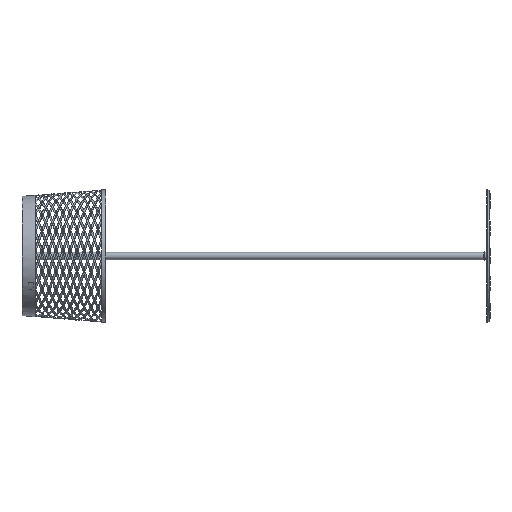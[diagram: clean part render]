
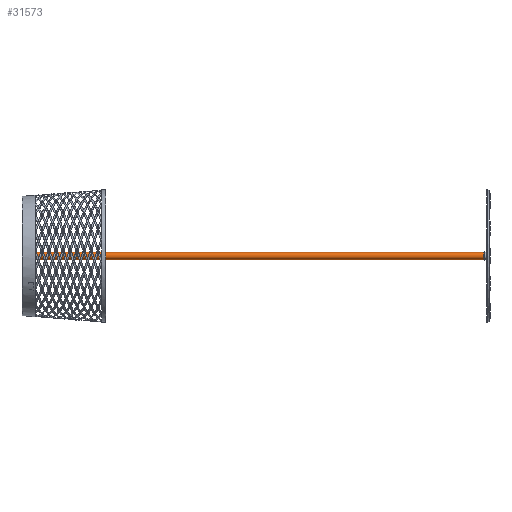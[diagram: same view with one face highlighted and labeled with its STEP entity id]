
A CAD part, left-side view. The second image highlights one B-rep face of the part: STEP entity #31573.
In plain terms, the highlighted cylindrical face has radius 12.5 mm (diameter 25 mm), a partial arc.
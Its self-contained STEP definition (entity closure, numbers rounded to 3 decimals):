
#207 = DIRECTION ( 'NONE',  ( 0., 1., 0. ) ) ;
#223 = ORIENTED_EDGE ( 'NONE', *, *, #29333, .F. ) ;
#1128 = CIRCLE ( 'NONE', #29965, 12.5 ) ;
#1374 = CARTESIAN_POINT ( 'NONE',  ( -80.643, 1585.694, 24.827 ) ) ;
#1991 = AXIS2_PLACEMENT_3D ( 'NONE', #23265, #207, #19491 ) ;
#2462 = CARTESIAN_POINT ( 'NONE',  ( -80.643, 1585.694, 49.827 ) ) ;
#9033 = CIRCLE ( 'NONE', #1991, 12.5 ) ;
#9097 = AXIS2_PLACEMENT_3D ( 'NONE', #43578, #38919, #58118 ) ;
#10656 = EDGE_CURVE ( 'NONE', #16763, #39937, #48596, .T. ) ;
#11521 = ORIENTED_EDGE ( 'NONE', *, *, #60446, .F. ) ;
#11556 = VECTOR ( 'NONE', #26440, 1000. ) ;
#16577 = CYLINDRICAL_SURFACE ( 'NONE', #9097, 12.5 ) ;
#16763 = VERTEX_POINT ( 'NONE', #56415 ) ;
#17332 = EDGE_LOOP ( 'NONE', ( #11521, #223, #26255, #56260 ) ) ;
#19491 = DIRECTION ( 'NONE',  ( 0., 0., 1. ) ) ;
#19986 = VERTEX_POINT ( 'NONE', #56952 ) ;
#20003 = FACE_OUTER_BOUND ( 'NONE', #17332, .T. ) ;
#22804 = CARTESIAN_POINT ( 'NONE',  ( -80.643, 1585.694, 49.827 ) ) ;
#23265 = CARTESIAN_POINT ( 'NONE',  ( -80.643, 25.694, 37.327 ) ) ;
#23985 = DIRECTION ( 'NONE',  ( 0., 0., 1. ) ) ;
#26255 = ORIENTED_EDGE ( 'NONE', *, *, #10656, .T. ) ;
#26440 = DIRECTION ( 'NONE',  ( 0., -1., 0. ) ) ;
#29333 = EDGE_CURVE ( 'NONE', #16763, #57095, #1128, .T. ) ;
#29965 = AXIS2_PLACEMENT_3D ( 'NONE', #58034, #42579, #23985 ) ;
#31573 = ADVANCED_FACE ( 'NONE', ( #20003 ), #16577, .T. ) ;
#38919 = DIRECTION ( 'NONE',  ( 0., -1., 0. ) ) ;
#39283 = DIRECTION ( 'NONE',  ( 0., -1., 0. ) ) ;
#39937 = VERTEX_POINT ( 'NONE', #51953 ) ;
#40393 = LINE ( 'NONE', #2462, #11556 ) ;
#42579 = DIRECTION ( 'NONE',  ( 0., 1., 0. ) ) ;
#43578 = CARTESIAN_POINT ( 'NONE',  ( -80.643, 1585.694, 37.327 ) ) ;
#48596 = LINE ( 'NONE', #1374, #58329 ) ;
#51953 = CARTESIAN_POINT ( 'NONE',  ( -80.643, 25.694, 24.827 ) ) ;
#52976 = EDGE_CURVE ( 'NONE', #39937, #19986, #9033, .T. ) ;
#56260 = ORIENTED_EDGE ( 'NONE', *, *, #52976, .T. ) ;
#56415 = CARTESIAN_POINT ( 'NONE',  ( -80.643, 1585.694, 24.827 ) ) ;
#56952 = CARTESIAN_POINT ( 'NONE',  ( -80.643, 25.694, 49.827 ) ) ;
#57095 = VERTEX_POINT ( 'NONE', #22804 ) ;
#58034 = CARTESIAN_POINT ( 'NONE',  ( -80.643, 1585.694, 37.327 ) ) ;
#58118 = DIRECTION ( 'NONE',  ( 0., 0., -1. ) ) ;
#58329 = VECTOR ( 'NONE', #39283, 1000. ) ;
#60446 = EDGE_CURVE ( 'NONE', #57095, #19986, #40393, .T. ) ;
